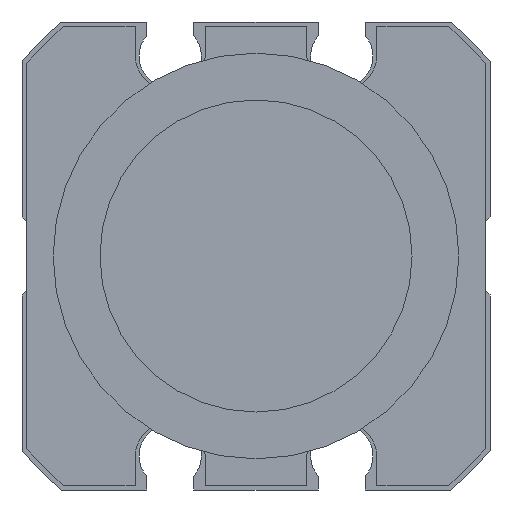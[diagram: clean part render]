
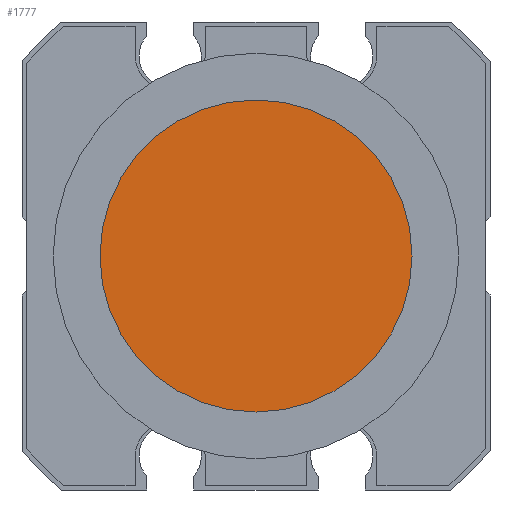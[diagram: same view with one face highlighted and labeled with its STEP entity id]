
A CAD part, front view. The second image highlights one B-rep face of the part: STEP entity #1777.
In plain terms, the highlighted planar face has unit normal (0, -1, 0).
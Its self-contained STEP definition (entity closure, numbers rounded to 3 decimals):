
#146=CIRCLE('',#1964,10.);
#550=ORIENTED_EDGE('',*,*,#824,.T.);
#824=EDGE_CURVE('',#990,#990,#146,.T.);
#990=VERTEX_POINT('',#2976);
#1406=EDGE_LOOP('',(#550));
#1568=FACE_BOUND('',#1406,.T.);
#1710=PLANE('',#1965);
#1777=ADVANCED_FACE('',(#1568),#1710,.F.);
#1964=AXIS2_PLACEMENT_3D('',#2975,#2417,#2418);
#1965=AXIS2_PLACEMENT_3D('',#2977,#2419,#2420);
#2417=DIRECTION('',(0.,-1.,0.));
#2418=DIRECTION('',(0.,0.,-1.));
#2419=DIRECTION('',(0.,1.,0.));
#2420=DIRECTION('',(0.,0.,1.));
#2975=CARTESIAN_POINT('',(15.,-40.,0.));
#2976=CARTESIAN_POINT('',(15.,-40.,-10.));
#2977=CARTESIAN_POINT('',(25.,-40.,0.));
